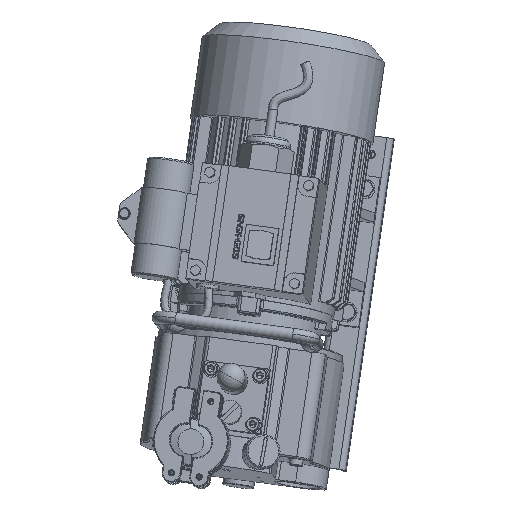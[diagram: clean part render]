
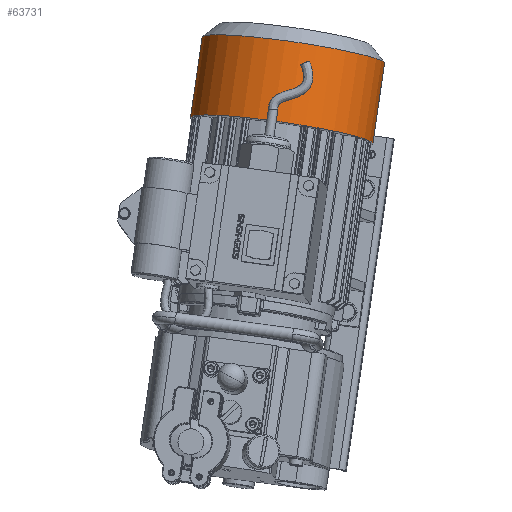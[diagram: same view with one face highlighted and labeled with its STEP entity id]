
A CAD part, top view. The second image highlights one B-rep face of the part: STEP entity #63731.
In plain terms, the highlighted cylindrical face has radius 59 mm (diameter 118 mm), a partial arc.
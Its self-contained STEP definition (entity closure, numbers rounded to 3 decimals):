
#9908=CARTESIAN_POINT('',(8.934,26.402,-74.973));
#9909=DIRECTION('',(-0.143,-0.986,0.091));
#9910=DIRECTION('',(0.986,-0.133,0.101));
#9911=AXIS2_PLACEMENT_3D('',#9908,#9909,#9910);
#10643=DIRECTION('',(0.143,0.986,-0.091));
#10644=VECTOR('',#10643,52.);
#10645=CARTESIAN_POINT('',(67.102,18.537,
-69.005));
#10646=LINE('',#10645,#10644);
#10647=DIRECTION('',(0.143,0.986,-0.091));
#10648=VECTOR('',#10647,52.);
#10649=CARTESIAN_POINT('',(-49.234,34.268,
-80.942));
#10650=LINE('',#10649,#10648);
#10680=CARTESIAN_POINT('',(16.348,77.654,
-79.698));
#10681=DIRECTION('',(0.143,0.986,-0.091));
#10682=DIRECTION('',(-0.986,0.133,-0.101));
#10683=AXIS2_PLACEMENT_3D('',#10680,#10681,#10682);
#42305=CARTESIAN_POINT('',(-41.82,85.519,
-85.667));
#42307=VERTEX_POINT('',#42305);
#42309=CARTESIAN_POINT('',(74.516,69.789,
-73.73));
#42311=VERTEX_POINT('',#42309);
#42320=CARTESIAN_POINT('',(-49.234,34.268,
-80.942));
#42321=VERTEX_POINT('',#42320);
#42322=CARTESIAN_POINT('',(67.102,18.537,
-69.005));
#42323=VERTEX_POINT('',#42322);
#63717=CARTESIAN_POINT('',(8.934,26.402,
-74.973));
#63718=DIRECTION('',(0.143,0.986,-0.091));
#63719=DIRECTION('',(-0.986,0.133,-0.101));
#63720=AXIS2_PLACEMENT_3D('',#63717,#63718,#63719);
#63721=CYLINDRICAL_SURFACE('',#63720,59.);
#63722=ORIENTED_EDGE('',*,*,#63327,.T.);
#63724=ORIENTED_EDGE('',*,*,#63723,.T.);
#63726=ORIENTED_EDGE('',*,*,#63725,.T.);
#63728=ORIENTED_EDGE('',*,*,#63727,.F.);
#63729=EDGE_LOOP('',(#63722,#63724,#63726,#63728));
#63730=FACE_OUTER_BOUND('',#63729,.F.);
#63731=ADVANCED_FACE('',(#63730),#63721,.T.);
#9912=CIRCLE('',#9911,59.);
#10684=CIRCLE('',#10683,59.);
#63327=EDGE_CURVE('',#42323,#42321,#9912,.T.);
#63723=EDGE_CURVE('',#42321,#42307,#10650,.T.);
#63725=EDGE_CURVE('',#42307,#42311,#10684,.T.);
#63727=EDGE_CURVE('',#42323,#42311,#10646,.T.);
